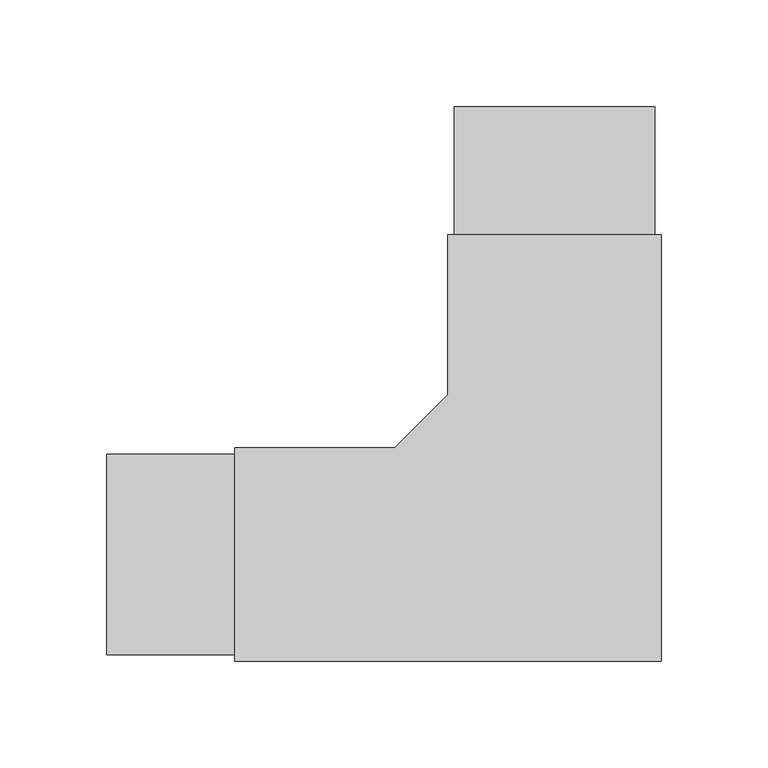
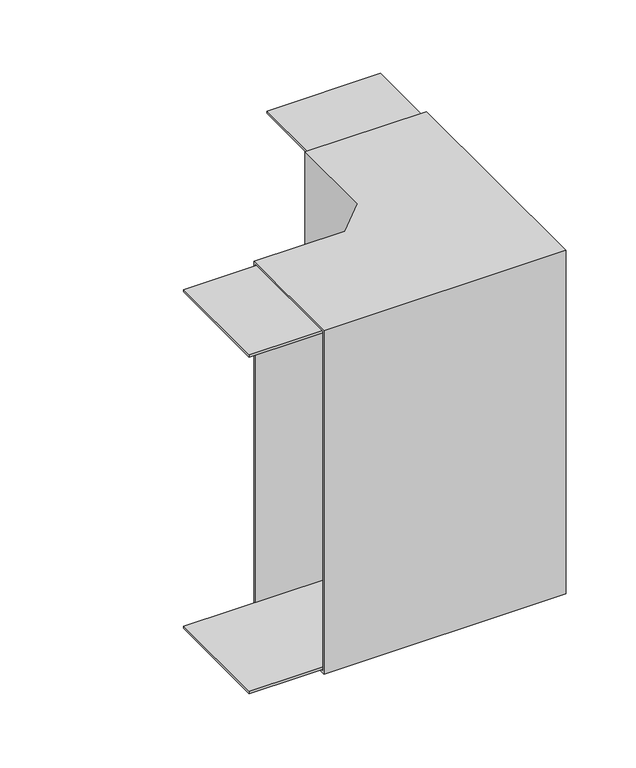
"""IFC4 building model written with IfcOpenShell, lengths in millimetres: cable carrier fitting geometry, CCWT_Vertical_Bend-Basorcanal : Basorcanal CCWT."""

from ifc_helpers import new_model, si_unit, frame, origin, place, context, project, spatial, polyline, outline, extrude, faceted_brep, source, transform, mapped, element, save


def cable_carrier_fitting_2a8efc73(model_context):
    return source(origin(), model_context, "Body", "SolidModel", [
        extrude(outline(polyline([(-210.0, -47.0), (-210.0, 47.0), (-90.0, 47.0), (-90.0, -47.0), (-210.0, -47.0)])), frame((0.0, 0.0, 146.0), z_axis=(0.0, 0.0, 1.0), x_axis=(1.0, 0.0, 0.0)), (0.0, 0.0, 1.0), 2.0),
        extrude(outline(polyline([(47.0, 210.0), (47.0, 90.0), (-47.0, 90.0), (-47.0, 210.0), (47.0, 210.0)])), frame((0.0, 0.0, -148.0), z_axis=(0.0, 0.0, 1.0), x_axis=(1.0, 0.0, 0.0)), (0.0, 0.0, 1.0), 2.0),
        extrude(outline(polyline([(-210.0, -47.0), (-210.0, 47.0), (-90.0, 47.0), (-90.0, -47.0), (-210.0, -47.0)])), frame((0.0, 0.0, -148.0), z_axis=(0.0, 0.0, 1.0), x_axis=(1.0, 0.0, 0.0)), (0.0, 0.0, 1.0), 2.0),
        extrude(outline(polyline([(47.0, 210.0), (47.0, 90.0), (-47.0, 90.0), (-47.0, 210.0), (47.0, 210.0)])), frame((0.0, 0.0, 146.0), z_axis=(0.0, 0.0, 1.0), x_axis=(1.0, 0.0, 0.0)), (0.0, 0.0, 1.0), 2.0),
        faceted_brep([(-150.0, -50.0, -150.0), (-150.0, -50.0, 150.0), (-150.0, 50.0, 150.0), (-150.0, 50.0, -150.0), (-150.0, -48.0, -148.0), (-150.0, 48.0, -148.0), (-150.0, 48.0, 148.0), (-150.0, -48.0, 148.0), (50.0, -50.0, -150.0), (50.0, -50.0, 150.0), (50.0, 150.0, 150.0), (-50.0, 150.0, 150.0), (-50.0, 75.0, 150.0), (-75.0, 50.0, 150.0), (-75.0, 50.0, -150.0), (48.0, 150.0, 148.0), (48.0, -48.0, 148.0), (-74.1715729, 48.0, 148.0), (-48.0, 74.1715729, 148.0), (-48.0, 150.0, 148.0), (48.0, -48.0, -148.0), (48.0, 150.0, -148.0), (-48.0, 150.0, -148.0), (-48.0, 74.1715729, -148.0), (-50.0, 72.1715729, -148.0), (-72.1715729, 50.0, -148.0), (-74.1715729, 48.0, -148.0), (-50.0, 75.0, -150.0), (-50.0, 150.0, -150.0), (50.0, 150.0, -150.0)], [[[0, 1, 2, 3], [4, 5, 6, 7]], [[1, 0, 8, 9]], [[2, 1, 9, 10, 11, 12, 13]], [[3, 2, 13, 14]], [[15, 16, 7, 6, 17, 18, 19]], [[4, 7, 16, 20]], [[4, 20, 21, 22, 23, 24, 25, 26, 5]], [[8, 0, 3, 14, 27, 28, 29]], [[29, 28, 11, 10], [15, 19, 22, 21]], [[9, 8, 29, 10]], [[11, 28, 27, 12]], [[16, 15, 21, 20]], [[23, 18, 17, 26, 25, 24]], [[14, 13, 12, 27]], [[22, 19, 18, 23]], [[6, 5, 26, 17]]]),
    ])


if __name__ == "__main__":
    model = new_model("IFC4")
    model_context = context("Model", 3, world=origin())
    ifc_project = project(units=[si_unit("LENGTHUNIT", "METRE", prefix="MILLI")], contexts=[model_context])
    site = spatial("IfcSite", under=ifc_project)
    building = spatial("IfcBuilding", under=site)
    placement = place(None, origin())
    cable_carrier_fitting_shape = cable_carrier_fitting_2a8efc73(model_context)
    element("IfcCableCarrierFitting", 1, ObjectType="CCWT_Vertical_Bend-Basorcanal : Basorcanal CCWT", at=placement, inside=building, context=model_context, shape_type="MappedRepresentation", body=[
        mapped(cable_carrier_fitting_shape, transform((0.0, 0.0, 0.0), x_axis=(1.0, 0.0, 0.0), y_axis=(0.0, 1.0, 0.0), z_axis=(0.0, 0.0, 1.0))),
    ])
    save(model, "model.ifc")
